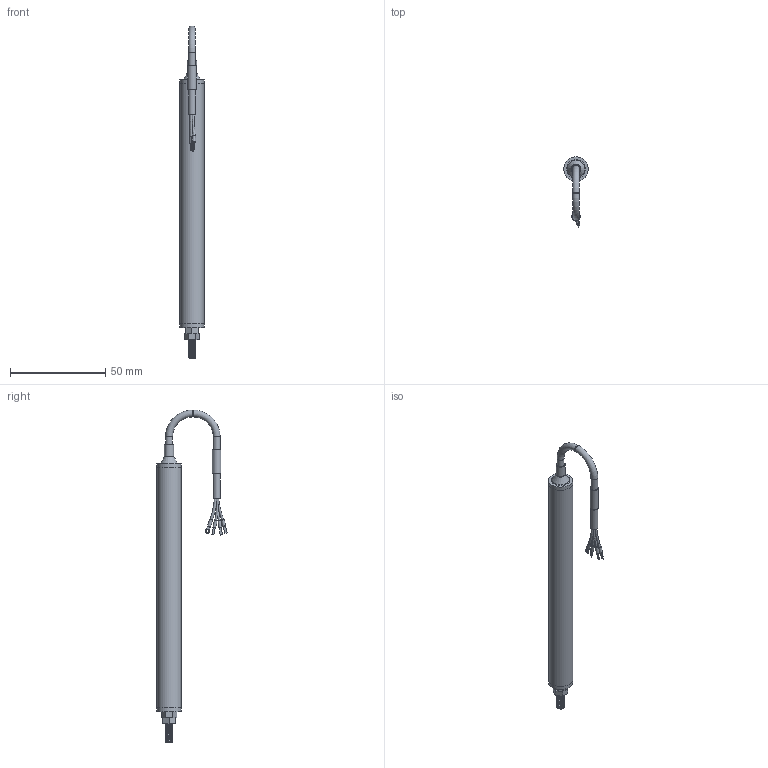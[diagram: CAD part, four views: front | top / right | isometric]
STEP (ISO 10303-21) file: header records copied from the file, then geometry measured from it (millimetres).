
FILE_DESCRIPTION(/* description */ (''),/* implementation_level */ '2;1');
FILE_NAME(/* name */ 'LPPS-12-075-A Assembly (wrapped).step',/* time_stamp */ '2023-10-10T09:59:11-04:00',/* author */ ('TSC_Grant'),/* organization */ (''),/* preprocessor_version */ 'ST-DEVELOPER v19.2',/* originating_system */ 'Autodesk Inventor 2024',/* authorisation */ '');
FILE_SCHEMA (('AUTOMOTIVE_DESIGN { 1 0 10303 214 3 1 1 }'));
Length unit declared in the file: inch
Products named in the file (4): LPPS-12-010-A Assembly (wrapped); LPPS-12-010-A Body (wrapped); LPPS-12-010-A Assembly_Simplify_1; Wire
Assembly tree (3 placements, depth 2):
  LPPS-12-010-A Assembly (wrapped)
    LPPS-12-010-A Body (wrapped)
    LPPS-12-010-A Assembly_Simplify_1
    Wire
Bounding box: 12.7 x 36.8 x 174.24 mm (x, y, z)
Volume: 17305.8 mm3; surface area: 10490.8 mm2
Topology: 13 solids, 13 shells, 133 faces, 286 edges, 190 vertices
Faces by surface type: plane 75, cylinder 44, bspline 8, torus 5, cone 1
Full cylindrical faces by diameter (mm): 1.016 x3, 1.27 x1, 1.524 x3, 1.651 x2, 3.632 x6, 3.937 x8, 4.191 x1, 4.445 x1, 4.826 x1, 12.7 x3
Entity records: 5483 total; most frequent: CARTESIAN_POINT 2222, DIRECTION 619, ORIENTED_EDGE 572, EDGE_CURVE 286, AXIS2_PLACEMENT_3D 236, VERTEX_POINT 190, EDGE_LOOP 150, LINE 147
